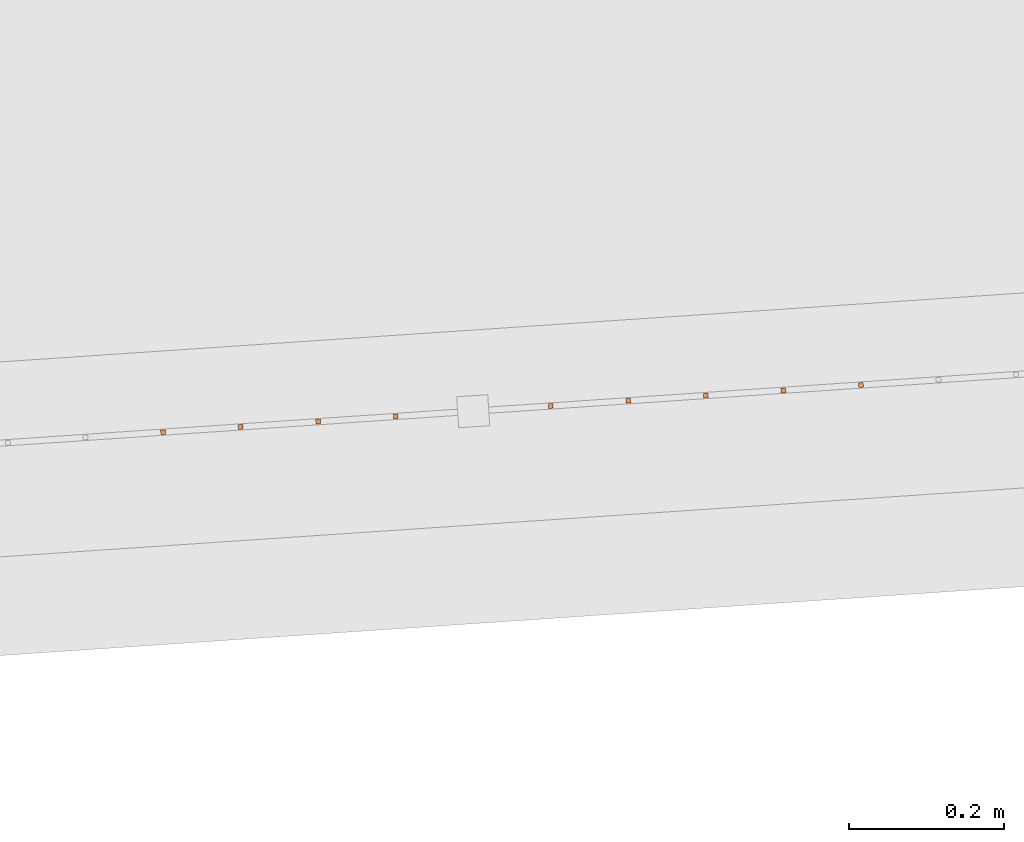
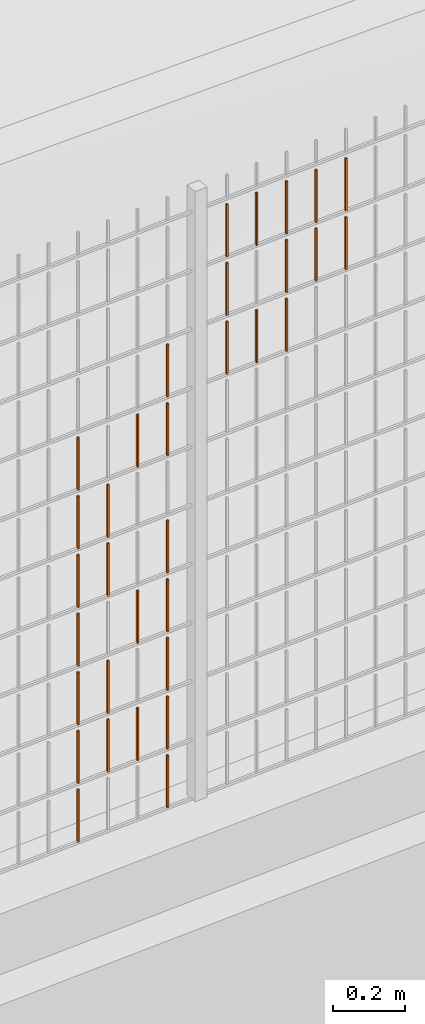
# One storey, part 359 of 1809: 33 proxies, 1 element without a shape of its own.
"""IFC2X3 building model written with IfcOpenShell, lengths in millimetres."""

from ifc_helpers import new_model, entity, si_unit, converted_unit, derived_unit, money_unit, direction, frame, origin_with_axes, place, context, subcontext, project, spatial, faceted_brep, source, transform, mapped, material, type_object, element, aggregate, save


model = new_model("IFC2X3")

# Units and contexts
model_context = context("Model", 3, precision=0.01, world=origin_with_axes(), true_north=direction((0.0, 1.0)))
body_context = subcontext(model_context, "Body", "Model", "MODEL_VIEW")
ifc_project = project(units=[si_unit("LENGTHUNIT", "METRE", prefix="MILLI"), si_unit("AREAUNIT", "SQUARE_METRE"), si_unit("VOLUMEUNIT", "CUBIC_METRE"), converted_unit("PLANEANGLEUNIT", "DEGREE", entity("IfcPlaneAngleMeasure", 0.0174532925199), si_unit("PLANEANGLEUNIT", "RADIAN"), dimensions=[0, 0, 0, 0, 0, 0, 0]), si_unit("SOLIDANGLEUNIT", "STERADIAN"), money_unit("EUR"), converted_unit("TIMEUNIT", "Year", entity("IfcTimeMeasure", 31556926.0), si_unit("TIMEUNIT", "SECOND"), dimensions=[0, 0, 1, 0, 0, 0, 0]), si_unit("MASSUNIT", "GRAM", prefix="KILO"), si_unit("THERMODYNAMICTEMPERATUREUNIT", "DEGREE_CELSIUS"), si_unit("LUMINOUSINTENSITYUNIT", "LUMEN"), si_unit("ENERGYUNIT", "JOULE", prefix="MEGA"), derived_unit("THERMALCONDUCTANCEUNIT", [(si_unit("POWERUNIT", "WATT"), 1), (si_unit("LENGTHUNIT", "METRE"), -1), (si_unit("THERMODYNAMICTEMPERATUREUNIT", "KELVIN"), -1)]), derived_unit("SPECIFICHEATCAPACITYUNIT", [(si_unit("ENERGYUNIT", "JOULE"), 1), (si_unit("MASSUNIT", "GRAM", prefix="KILO"), -1), (si_unit("THERMODYNAMICTEMPERATUREUNIT", "KELVIN"), -1)]), derived_unit("MASSDENSITYUNIT", [(si_unit("MASSUNIT", "GRAM", prefix="KILO"), 1), (si_unit("VOLUMEUNIT", "CUBIC_METRE"), -1)])], contexts=[model_context])

# Site, building, storey
site_placement = place(None, origin_with_axes())
site = spatial("IfcSite", under=ifc_project, at=site_placement, Name="Politse- ja Piirivalveameti ning Päästeameti ühishoone", CompositionType="ELEMENT")
building_placement = place(site_placement, origin_with_axes())
building = spatial("IfcBuilding", under=site, at=building_placement, Name="Politse- ja Piirivalveameti ning Päästeameti ühishoone", CompositionType="ELEMENT")
storey_placement = place(building_placement, origin_with_axes())
storey = spatial("IfcBuildingStorey", under=building, at=storey_placement, Name="Esimene korrus", CompositionType="ELEMENT", Elevation=0.0)

# Proxies
building_element_proxy_type_1 = type_object("IfcBuildingElementProxyType", Name="Railing Type", PredefinedType="NOTDEFINED")
proxy_1_placement = place(storey_placement, frame((89252.001212, -29183.4766571, 203.661247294), z_axis=(0.0, 0.0, 1.0), x_axis=(1.0, 0.0, 0.0)))
proxy_1 = element("IfcBuildingElementProxy", 1, at=proxy_1_placement, inside=storey, type_object=building_element_proxy_type_1, Name="PIIRDEAED")
ifc_material = material(Name="ET-03_Raud")
building_element_proxy_type_2 = type_object("IfcBuildingElementProxyType", Name="IfcBuildingElementProxy", PredefinedType="NOTDEFINED")
shared_shape_1 = source(origin_with_axes(), body_context, "Body", "Brep", [
    faceted_brep([(3.0, 3.0, -0.000752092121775), (-3.0, 3.0, -0.000752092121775), (-3.0, 3.0, 179.99926046), (3.0, 3.0, 179.99926046), (3.0, -3.0, 0.000752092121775), (-3.0, -3.0, 0.000752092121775), (-3.0, -3.0, 180.000764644), (3.0, -3.0, 180.000764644)], [[[0, 1, 2, 3]], [[0, 4, 5, 1]], [[1, 5, 6, 2]], [[3, 2, 6, 7]], [[4, 0, 3, 7]], [[5, 4, 7, 6]]]),
])
proxy_2_placement = place(proxy_1_placement, frame((-24969.790551, -18984.3898807, 1220.96026056), z_axis=(0.0, 0.0, 1.0), x_axis=(1.0, 0.0, 0.0)))
proxy_2 = element("IfcBuildingElementProxy", 2, at=proxy_2_placement, type_object=building_element_proxy_type_2, material=ifc_material, Name="BALUSTER - 001", context=body_context, shape_type="MappedRepresentation", body=[
    mapped(shared_shape_1, transform((0.0, 0.0, 0.0), x_axis=(-0.0673926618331, 0.997726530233, 0.0), y_axis=(-0.997726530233, -0.0673926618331, 0.0), z_axis=(0.0, 0.0, 1.0))),
])
shared_shape_2 = source(origin_with_axes(), body_context, "Body", "Brep", [
    faceted_brep([(3.0, 3.0, -0.000752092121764), (-3.0, 3.0, -0.000752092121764), (-3.0, 3.0, 179.99926046), (3.0, 3.0, 179.99926046), (3.0, -3.0, 0.000752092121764), (-3.0, -3.0, 0.000752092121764), (-3.0, -3.0, 180.000764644), (3.0, -3.0, 180.000764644)], [[[0, 1, 2, 3]], [[0, 4, 5, 1]], [[1, 5, 6, 2]], [[3, 2, 6, 7]], [[4, 0, 3, 7]], [[5, 4, 7, 6]]]),
])
proxy_3_placement = place(proxy_1_placement, frame((-24870.017898, -18977.6506146, 1420.9853303), z_axis=(0.0, 0.0, 1.0), x_axis=(1.0, 0.0, 0.0)))
proxy_3 = element("IfcBuildingElementProxy", 3, at=proxy_3_placement, type_object=building_element_proxy_type_2, material=ifc_material, Name="BALUSTER - 001", context=body_context, shape_type="MappedRepresentation", body=[
    mapped(shared_shape_2, transform((0.0, 0.0, 0.0), x_axis=(-0.0673926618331, 0.997726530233, 0.0), y_axis=(-0.997726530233, -0.0673926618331, 0.0), z_axis=(0.0, 0.0, 1.0))),
])
shared_shape_3 = source(origin_with_axes(), body_context, "Body", "Brep", [
    faceted_brep([(3.0, 3.0, -0.000752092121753), (-3.0, 3.0, -0.000752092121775), (-3.0, 3.0, 179.99926046), (3.0, 3.0, 179.99926046), (3.0, -3.0, 0.000752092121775), (-3.0, -3.0, 0.000752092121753), (-3.0, -3.0, 180.000764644), (3.0, -3.0, 180.000764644)], [[[0, 1, 2, 3]], [[0, 4, 5, 1]], [[1, 5, 6, 2]], [[3, 2, 6, 7]], [[4, 0, 3, 7]], [[5, 4, 7, 6]]]),
])
proxy_4_placement = place(proxy_1_placement, frame((-25169.3358571, -18997.8684131, 420.910121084), z_axis=(0.0, 0.0, 1.0), x_axis=(1.0, 0.0, 0.0)))
proxy_4 = element("IfcBuildingElementProxy", 4, at=proxy_4_placement, type_object=building_element_proxy_type_2, material=ifc_material, Name="BALUSTER - 001", context=body_context, shape_type="MappedRepresentation", body=[
    mapped(shared_shape_3, transform((0.0, 0.0, 0.0), x_axis=(-0.0673926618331, 0.997726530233, 0.0), y_axis=(-0.997726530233, -0.0673926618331, 0.0), z_axis=(0.0, 0.0, 1.0))),
])
shared_shape_4 = source(origin_with_axes(), body_context, "Body", "Brep", [
    faceted_brep([(3.0, 3.0, -0.000752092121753), (-3.0, 3.0, -0.000752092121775), (-3.0, 3.0, 179.99926046), (3.0, 3.0, 179.99926046), (3.0, -3.0, 0.000752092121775), (-3.0, -3.0, 0.000752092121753), (-3.0, -3.0, 180.000764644), (3.0, -3.0, 180.000764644)], [[[0, 1, 2, 3]], [[0, 4, 5, 1]], [[1, 5, 6, 2]], [[3, 2, 6, 7]], [[4, 0, 3, 7]], [[5, 4, 7, 6]]]),
])
proxy_5_placement = place(proxy_1_placement, frame((-25169.3358571, -18997.8684131, 620.910121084), z_axis=(0.0, 0.0, 1.0), x_axis=(1.0, 0.0, 0.0)))
proxy_5 = element("IfcBuildingElementProxy", 5, at=proxy_5_placement, type_object=building_element_proxy_type_2, material=ifc_material, Name="BALUSTER - 001", context=body_context, shape_type="MappedRepresentation", body=[
    mapped(shared_shape_4, transform((0.0, 0.0, 0.0), x_axis=(-0.0673926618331, 0.997726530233, 0.0), y_axis=(-0.997726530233, -0.0673926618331, 0.0), z_axis=(0.0, 0.0, 1.0))),
])
shared_shape_5 = source(origin_with_axes(), body_context, "Body", "Brep", [
    faceted_brep([(3.0, 3.0, -0.000752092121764), (-3.0, 3.0, -0.000752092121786), (-3.0, 3.0, 179.99926046), (3.0, 3.0, 179.99926046), (3.0, -3.0, 0.000752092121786), (-3.0, -3.0, 0.000752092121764), (-3.0, -3.0, 180.000764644), (3.0, -3.0, 180.000764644)], [[[0, 1, 2, 3]], [[0, 4, 5, 1]], [[1, 5, 6, 2]], [[3, 2, 6, 7]], [[4, 0, 3, 7]], [[5, 4, 7, 6]]]),
])
proxy_6_placement = place(proxy_1_placement, frame((-25169.3358571, -18997.8684131, 1220.91012108), z_axis=(0.0, 0.0, 1.0), x_axis=(1.0, 0.0, 0.0)))
proxy_6 = element("IfcBuildingElementProxy", 6, at=proxy_6_placement, type_object=building_element_proxy_type_2, material=ifc_material, Name="BALUSTER - 001", context=body_context, shape_type="MappedRepresentation", body=[
    mapped(shared_shape_5, transform((0.0, 0.0, 0.0), x_axis=(-0.0673926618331, 0.997726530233, 0.0), y_axis=(-0.997726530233, -0.0673926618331, 0.0), z_axis=(0.0, 0.0, 1.0))),
])
shared_shape_6 = source(origin_with_axes(), body_context, "Body", "Brep", [
    faceted_brep([(3.0, 3.0, -0.000752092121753), (-3.0, 3.0, -0.000752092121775), (-3.0, 3.0, 179.99926046), (3.0, 3.0, 179.99926046), (3.0, -3.0, 0.000752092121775), (-3.0, -3.0, 0.000752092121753), (-3.0, -3.0, 180.000764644), (3.0, -3.0, 180.000764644)], [[[0, 1, 2, 3]], [[0, 4, 5, 1]], [[1, 5, 6, 2]], [[3, 2, 6, 7]], [[4, 0, 3, 7]], [[5, 4, 7, 6]]]),
])
proxy_7_placement = place(proxy_1_placement, frame((-25169.3358571, -18997.8684131, 820.910121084), z_axis=(0.0, 0.0, 1.0), x_axis=(1.0, 0.0, 0.0)))
proxy_7 = element("IfcBuildingElementProxy", 7, at=proxy_7_placement, type_object=building_element_proxy_type_2, material=ifc_material, Name="BALUSTER - 001", context=body_context, shape_type="MappedRepresentation", body=[
    mapped(shared_shape_6, transform((0.0, 0.0, 0.0), x_axis=(-0.0673926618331, 0.997726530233, 0.0), y_axis=(-0.997726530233, -0.0673926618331, 0.0), z_axis=(0.0, 0.0, 1.0))),
])
shared_shape_7 = source(origin_with_axes(), body_context, "Body", "Brep", [
    faceted_brep([(3.0, 3.0, -0.000752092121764), (-3.0, 3.0, -0.000752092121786), (-3.0, 3.0, 179.99926046), (3.0, 3.0, 179.99926046), (3.0, -3.0, 0.000752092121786), (-3.0, -3.0, 0.000752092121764), (-3.0, -3.0, 180.000764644), (3.0, -3.0, 180.000764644)], [[[0, 1, 2, 3]], [[0, 4, 5, 1]], [[1, 5, 6, 2]], [[3, 2, 6, 7]], [[4, 0, 3, 7]], [[5, 4, 7, 6]]]),
])
proxy_8_placement = place(proxy_1_placement, frame((-24470.9272859, -18950.6935498, 1821.08560925), z_axis=(0.0, 0.0, 1.0), x_axis=(1.0, 0.0, 0.0)))
proxy_8 = element("IfcBuildingElementProxy", 8, at=proxy_8_placement, type_object=building_element_proxy_type_2, material=ifc_material, Name="BALUSTER - 001", context=body_context, shape_type="MappedRepresentation", body=[
    mapped(shared_shape_7, transform((0.0, 0.0, 0.0), x_axis=(-0.0673926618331, 0.997726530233, 0.0), y_axis=(-0.997726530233, -0.0673926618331, 0.0), z_axis=(0.0, 0.0, 1.0))),
])
proxy_9_placement = place(proxy_1_placement, frame((-24570.6999389, -18957.432816, 1821.06053951), z_axis=(0.0, 0.0, 1.0), x_axis=(1.0, 0.0, 0.0)))
proxy_9 = element("IfcBuildingElementProxy", 9, at=proxy_9_placement, type_object=building_element_proxy_type_2, material=ifc_material, Name="BALUSTER - 001", context=body_context, shape_type="MappedRepresentation", body=[
    mapped(shared_shape_7, transform((0.0, 0.0, 0.0), x_axis=(-0.0673926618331, 0.997726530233, 0.0), y_axis=(-0.997726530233, -0.0673926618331, 0.0), z_axis=(0.0, 0.0, 1.0))),
])
shared_shape_8 = source(origin_with_axes(), body_context, "Body", "Brep", [
    faceted_brep([(3.0, 3.0, -0.000752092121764), (-3.0, 3.0, -0.000752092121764), (-3.0, 3.0, 179.99926046), (3.0, 3.0, 179.99926046), (3.0, -3.0, 0.000752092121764), (-3.0, -3.0, 0.000752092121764), (-3.0, -3.0, 180.000764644), (3.0, -3.0, 180.000764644)], [[[0, 1, 2, 3]], [[0, 4, 5, 1]], [[1, 5, 6, 2]], [[3, 2, 6, 7]], [[4, 0, 3, 7]], [[5, 4, 7, 6]]]),
])
proxy_10_placement = place(proxy_1_placement, frame((-24870.017898, -18977.6506146, 1220.9853303), z_axis=(0.0, 0.0, 1.0), x_axis=(1.0, 0.0, 0.0)))
proxy_10 = element("IfcBuildingElementProxy", 10, at=proxy_10_placement, type_object=building_element_proxy_type_2, material=ifc_material, Name="BALUSTER - 001", context=body_context, shape_type="MappedRepresentation", body=[
    mapped(shared_shape_8, transform((0.0, 0.0, 0.0), x_axis=(-0.0673926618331, 0.997726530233, 0.0), y_axis=(-0.997726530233, -0.0673926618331, 0.0), z_axis=(0.0, 0.0, 1.0))),
])
shared_shape_9 = source(origin_with_axes(), body_context, "Body", "Brep", [
    faceted_brep([(3.0, 3.0, -0.000752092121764), (-3.0, 3.0, -0.000752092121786), (-3.0, 3.0, 179.99926046), (3.0, 3.0, 179.99926046), (3.0, -3.0, 0.000752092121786), (-3.0, -3.0, 0.000752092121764), (-3.0, -3.0, 180.000764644), (3.0, -3.0, 180.000764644)], [[[0, 1, 2, 3]], [[0, 4, 5, 1]], [[1, 5, 6, 2]], [[3, 2, 6, 7]], [[4, 0, 3, 7]], [[5, 4, 7, 6]]]),
])
proxy_11_placement = place(proxy_1_placement, frame((-24371.1546329, -18943.9542836, 1821.11067898), z_axis=(0.0, 0.0, 1.0), x_axis=(1.0, 0.0, 0.0)))
proxy_11 = element("IfcBuildingElementProxy", 11, at=proxy_11_placement, type_object=building_element_proxy_type_2, material=ifc_material, Name="BALUSTER - 001", context=body_context, shape_type="MappedRepresentation", body=[
    mapped(shared_shape_9, transform((0.0, 0.0, 0.0), x_axis=(-0.0673926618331, 0.997726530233, 0.0), y_axis=(-0.997726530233, -0.0673926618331, 0.0), z_axis=(0.0, 0.0, 1.0))),
])
shared_shape_10 = source(origin_with_axes(), body_context, "Body", "Brep", [
    faceted_brep([(3.0, 3.0, -0.000752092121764), (-3.0, 3.0, -0.000752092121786), (-3.0, 3.0, 179.99926046), (3.0, 3.0, 179.99926046), (3.0, -3.0, 0.000752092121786), (-3.0, -3.0, 0.000752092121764), (-3.0, -3.0, 180.000764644), (3.0, -3.0, 180.000764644)], [[[0, 1, 2, 3]], [[0, 4, 5, 1]], [[1, 5, 6, 2]], [[3, 2, 6, 7]], [[4, 0, 3, 7]], [[5, 4, 7, 6]]]),
])
proxy_12_placement = place(proxy_1_placement, frame((-24470.9272859, -18950.6935498, 1621.08560925), z_axis=(0.0, 0.0, 1.0), x_axis=(1.0, 0.0, 0.0)))
proxy_12 = element("IfcBuildingElementProxy", 12, at=proxy_12_placement, type_object=building_element_proxy_type_2, material=ifc_material, Name="BALUSTER - 001", context=body_context, shape_type="MappedRepresentation", body=[
    mapped(shared_shape_10, transform((0.0, 0.0, 0.0), x_axis=(-0.0673926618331, 0.997726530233, 0.0), y_axis=(-0.997726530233, -0.0673926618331, 0.0), z_axis=(0.0, 0.0, 1.0))),
])
shared_shape_11 = source(origin_with_axes(), body_context, "Body", "Brep", [
    faceted_brep([(3.0, 3.0, -0.000752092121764), (-3.0, 3.0, -0.000752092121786), (-3.0, 3.0, 179.99926046), (3.0, 3.0, 179.99926046), (3.0, -3.0, 0.000752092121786), (-3.0, -3.0, 0.000752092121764), (-3.0, -3.0, 180.000764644), (3.0, -3.0, 180.000764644)], [[[0, 1, 2, 3]], [[0, 4, 5, 1]], [[1, 5, 6, 2]], [[3, 2, 6, 7]], [[4, 0, 3, 7]], [[5, 4, 7, 6]]]),
])
proxy_13_placement = place(proxy_1_placement, frame((-24371.1546329, -18943.9542836, 1621.11067898), z_axis=(0.0, 0.0, 1.0), x_axis=(1.0, 0.0, 0.0)))
proxy_13 = element("IfcBuildingElementProxy", 13, at=proxy_13_placement, type_object=building_element_proxy_type_2, material=ifc_material, Name="BALUSTER - 001", context=body_context, shape_type="MappedRepresentation", body=[
    mapped(shared_shape_11, transform((0.0, 0.0, 0.0), x_axis=(-0.0673926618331, 0.997726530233, 0.0), y_axis=(-0.997726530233, -0.0673926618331, 0.0), z_axis=(0.0, 0.0, 1.0))),
])
shared_shape_12 = source(origin_with_axes(), body_context, "Body", "Brep", [
    faceted_brep([(3.0, 3.0, -0.000752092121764), (-3.0, 3.0, -0.000752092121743), (-3.0, 3.0, 179.99926046), (3.0, 3.0, 179.99926046), (3.0, -3.0, 0.000752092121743), (-3.0, -3.0, 0.000752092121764), (-3.0, -3.0, 180.000764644), (3.0, -3.0, 180.000764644)], [[[0, 1, 2, 3]], [[0, 4, 5, 1]], [[1, 5, 6, 2]], [[3, 2, 6, 7]], [[4, 0, 3, 7]], [[5, 4, 7, 6]]]),
])
proxy_14_placement = place(proxy_1_placement, frame((-24271.3819798, -18937.2150175, 1621.13574872), z_axis=(0.0, 0.0, 1.0), x_axis=(1.0, 0.0, 0.0)))
proxy_14 = element("IfcBuildingElementProxy", 14, at=proxy_14_placement, type_object=building_element_proxy_type_2, material=ifc_material, Name="BALUSTER - 001", context=body_context, shape_type="MappedRepresentation", body=[
    mapped(shared_shape_12, transform((0.0, 0.0, 0.0), x_axis=(-0.0673926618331, 0.997726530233, 0.0), y_axis=(-0.997726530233, -0.0673926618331, 0.0), z_axis=(0.0, 0.0, 1.0))),
])
shared_shape_13 = source(origin_with_axes(), body_context, "Body", "Brep", [
    faceted_brep([(3.0, 3.0, -0.000752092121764), (-3.0, 3.0, -0.000752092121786), (-3.0, 3.0, 179.99926046), (3.0, 3.0, 179.99926046), (3.0, -3.0, 0.000752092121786), (-3.0, -3.0, 0.000752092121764), (-3.0, -3.0, 180.000764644), (3.0, -3.0, 180.000764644)], [[[0, 1, 2, 3]], [[0, 4, 5, 1]], [[1, 5, 6, 2]], [[3, 2, 6, 7]], [[4, 0, 3, 7]], [[5, 4, 7, 6]]]),
])
proxy_15_placement = place(proxy_1_placement, frame((-24470.9272859, -18950.6935498, 1421.08560925), z_axis=(0.0, 0.0, 1.0), x_axis=(1.0, 0.0, 0.0)))
proxy_15 = element("IfcBuildingElementProxy", 15, at=proxy_15_placement, type_object=building_element_proxy_type_2, material=ifc_material, Name="BALUSTER - 001", context=body_context, shape_type="MappedRepresentation", body=[
    mapped(shared_shape_13, transform((0.0, 0.0, 0.0), x_axis=(-0.0673926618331, 0.997726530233, 0.0), y_axis=(-0.997726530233, -0.0673926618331, 0.0), z_axis=(0.0, 0.0, 1.0))),
])
proxy_16_placement = place(proxy_1_placement, frame((-24570.6999389, -18957.432816, 1421.06053951), z_axis=(0.0, 0.0, 1.0), x_axis=(1.0, 0.0, 0.0)))
proxy_16 = element("IfcBuildingElementProxy", 16, at=proxy_16_placement, type_object=building_element_proxy_type_2, material=ifc_material, Name="BALUSTER - 001", context=body_context, shape_type="MappedRepresentation", body=[
    mapped(shared_shape_13, transform((0.0, 0.0, 0.0), x_axis=(-0.0673926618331, 0.997726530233, 0.0), y_axis=(-0.997726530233, -0.0673926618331, 0.0), z_axis=(0.0, 0.0, 1.0))),
])
shared_shape_14 = source(origin_with_axes(), body_context, "Body", "Brep", [
    faceted_brep([(3.0, 3.0, -0.000752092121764), (-3.0, 3.0, -0.000752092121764), (-3.0, 3.0, 179.99926046), (3.0, 3.0, 179.99926046), (3.0, -3.0, 0.000752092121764), (-3.0, -3.0, 0.000752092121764), (-3.0, -3.0, 180.000764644), (3.0, -3.0, 180.000764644)], [[[0, 1, 2, 3]], [[0, 4, 5, 1]], [[1, 5, 6, 2]], [[3, 2, 6, 7]], [[4, 0, 3, 7]], [[5, 4, 7, 6]]]),
])
proxy_17_placement = place(proxy_1_placement, frame((-24670.4725919, -18964.1720822, 1421.03546977), z_axis=(0.0, 0.0, 1.0), x_axis=(1.0, 0.0, 0.0)))
proxy_17 = element("IfcBuildingElementProxy", 17, at=proxy_17_placement, type_object=building_element_proxy_type_2, material=ifc_material, Name="BALUSTER - 001", context=body_context, shape_type="MappedRepresentation", body=[
    mapped(shared_shape_14, transform((0.0, 0.0, 0.0), x_axis=(-0.0673926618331, 0.997726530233, 0.0), y_axis=(-0.997726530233, -0.0673926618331, 0.0), z_axis=(0.0, 0.0, 1.0))),
])
proxy_18_placement = place(proxy_1_placement, frame((-24670.4725919, -18964.1720822, 1621.03546977), z_axis=(0.0, 0.0, 1.0), x_axis=(1.0, 0.0, 0.0)))
proxy_18 = element("IfcBuildingElementProxy", 18, at=proxy_18_placement, type_object=building_element_proxy_type_2, material=ifc_material, Name="BALUSTER - 001", context=body_context, shape_type="MappedRepresentation", body=[
    mapped(shared_shape_14, transform((0.0, 0.0, 0.0), x_axis=(-0.0673926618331, 0.997726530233, 0.0), y_axis=(-0.997726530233, -0.0673926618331, 0.0), z_axis=(0.0, 0.0, 1.0))),
])
shared_shape_15 = source(origin_with_axes(), body_context, "Body", "Brep", [
    faceted_brep([(3.0, 3.0, -0.000752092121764), (-3.0, 3.0, -0.000752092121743), (-3.0, 3.0, 179.99926046), (3.0, 3.0, 179.99926046), (3.0, -3.0, 0.000752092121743), (-3.0, -3.0, 0.000752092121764), (-3.0, -3.0, 180.000764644), (3.0, -3.0, 180.000764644)], [[[0, 1, 2, 3]], [[0, 4, 5, 1]], [[1, 5, 6, 2]], [[3, 2, 6, 7]], [[4, 0, 3, 7]], [[5, 4, 7, 6]]]),
])
proxy_19_placement = place(proxy_1_placement, frame((-24271.3819798, -18937.2150175, 1821.13574872), z_axis=(0.0, 0.0, 1.0), x_axis=(1.0, 0.0, 0.0)))
proxy_19 = element("IfcBuildingElementProxy", 19, at=proxy_19_placement, type_object=building_element_proxy_type_2, material=ifc_material, Name="BALUSTER - 001", context=body_context, shape_type="MappedRepresentation", body=[
    mapped(shared_shape_15, transform((0.0, 0.0, 0.0), x_axis=(-0.0673926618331, 0.997726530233, 0.0), y_axis=(-0.997726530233, -0.0673926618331, 0.0), z_axis=(0.0, 0.0, 1.0))),
])
shared_shape_16 = source(origin_with_axes(), body_context, "Body", "Brep", [
    faceted_brep([(3.0, 3.0, -0.000752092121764), (-3.0, 3.0, -0.000752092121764), (-3.0, 3.0, 179.99926046), (3.0, 3.0, 179.99926046), (3.0, -3.0, 0.000752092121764), (-3.0, -3.0, 0.000752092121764), (-3.0, -3.0, 180.000764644), (3.0, -3.0, 180.000764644)], [[[0, 1, 2, 3]], [[0, 4, 5, 1]], [[1, 5, 6, 2]], [[3, 2, 6, 7]], [[4, 0, 3, 7]], [[5, 4, 7, 6]]]),
])
proxy_20_placement = place(proxy_1_placement, frame((-24670.4725919, -18964.1720822, 1821.03546977), z_axis=(0.0, 0.0, 1.0), x_axis=(1.0, 0.0, 0.0)))
proxy_20 = element("IfcBuildingElementProxy", 20, at=proxy_20_placement, type_object=building_element_proxy_type_2, material=ifc_material, Name="BALUSTER - 001", context=body_context, shape_type="MappedRepresentation", body=[
    mapped(shared_shape_16, transform((0.0, 0.0, 0.0), x_axis=(-0.0673926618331, 0.997726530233, 0.0), y_axis=(-0.997726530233, -0.0673926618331, 0.0), z_axis=(0.0, 0.0, 1.0))),
])
shared_shape_17 = source(origin_with_axes(), body_context, "Body", "Brep", [
    faceted_brep([(3.0, 3.0, -0.000752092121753), (-3.0, 3.0, -0.000752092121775), (-3.0, 3.0, 179.99926046), (3.0, 3.0, 179.99926046), (3.0, -3.0, 0.000752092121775), (-3.0, -3.0, 0.000752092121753), (-3.0, -3.0, 180.000764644), (3.0, -3.0, 180.000764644)], [[[0, 1, 2, 3]], [[0, 4, 5, 1]], [[1, 5, 6, 2]], [[3, 2, 6, 7]], [[4, 0, 3, 7]], [[5, 4, 7, 6]]]),
])
proxy_21_placement = place(proxy_1_placement, frame((-24870.017898, -18977.6506146, 20.9853302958), z_axis=(0.0, 0.0, 1.0), x_axis=(1.0, 0.0, 0.0)))
proxy_21 = element("IfcBuildingElementProxy", 21, at=proxy_21_placement, type_object=building_element_proxy_type_2, material=ifc_material, Name="BALUSTER - 001", context=body_context, shape_type="MappedRepresentation", body=[
    mapped(shared_shape_17, transform((0.0, 0.0, 0.0), x_axis=(-0.0673926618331, 0.997726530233, 0.0), y_axis=(-0.997726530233, -0.0673926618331, 0.0), z_axis=(0.0, 0.0, 1.0))),
])
shared_shape_18 = source(origin_with_axes(), body_context, "Body", "Brep", [
    faceted_brep([(3.0, 3.0, -0.000752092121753), (-3.0, 3.0, -0.000752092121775), (-3.0, 3.0, 179.99926046), (3.0, 3.0, 179.99926046), (3.0, -3.0, 0.000752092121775), (-3.0, -3.0, 0.000752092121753), (-3.0, -3.0, 180.000764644), (3.0, -3.0, 180.000764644)], [[[0, 1, 2, 3]], [[0, 4, 5, 1]], [[1, 5, 6, 2]], [[3, 2, 6, 7]], [[4, 0, 3, 7]], [[5, 4, 7, 6]]]),
])
proxy_22_placement = place(proxy_1_placement, frame((-25169.3358571, -18997.8684131, 20.9101210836), z_axis=(0.0, 0.0, 1.0), x_axis=(1.0, 0.0, 0.0)))
proxy_22 = element("IfcBuildingElementProxy", 22, at=proxy_22_placement, type_object=building_element_proxy_type_2, material=ifc_material, Name="BALUSTER - 001", context=body_context, shape_type="MappedRepresentation", body=[
    mapped(shared_shape_18, transform((0.0, 0.0, 0.0), x_axis=(-0.0673926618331, 0.997726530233, 0.0), y_axis=(-0.997726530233, -0.0673926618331, 0.0), z_axis=(0.0, 0.0, 1.0))),
])
shared_shape_19 = source(origin_with_axes(), body_context, "Body", "Brep", [
    faceted_brep([(3.0, 3.0, -0.000752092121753), (-3.0, 3.0, -0.000752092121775), (-3.0, 3.0, 179.99926046), (3.0, 3.0, 179.99926046), (3.0, -3.0, 0.000752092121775), (-3.0, -3.0, 0.000752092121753), (-3.0, -3.0, 180.000764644), (3.0, -3.0, 180.000764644)], [[[0, 1, 2, 3]], [[0, 4, 5, 1]], [[1, 5, 6, 2]], [[3, 2, 6, 7]], [[4, 0, 3, 7]], [[5, 4, 7, 6]]]),
])
proxy_23_placement = place(proxy_1_placement, frame((-24870.017898, -18977.6506146, 220.985330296), z_axis=(0.0, 0.0, 1.0), x_axis=(1.0, 0.0, 0.0)))
proxy_23 = element("IfcBuildingElementProxy", 23, at=proxy_23_placement, type_object=building_element_proxy_type_2, material=ifc_material, Name="BALUSTER - 001", context=body_context, shape_type="MappedRepresentation", body=[
    mapped(shared_shape_19, transform((0.0, 0.0, 0.0), x_axis=(-0.0673926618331, 0.997726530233, 0.0), y_axis=(-0.997726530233, -0.0673926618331, 0.0), z_axis=(0.0, 0.0, 1.0))),
])
proxy_24_placement = place(proxy_1_placement, frame((-24870.017898, -18977.6506146, 420.985330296), z_axis=(0.0, 0.0, 1.0), x_axis=(1.0, 0.0, 0.0)))
proxy_24 = element("IfcBuildingElementProxy", 24, at=proxy_24_placement, type_object=building_element_proxy_type_2, material=ifc_material, Name="BALUSTER - 001", context=body_context, shape_type="MappedRepresentation", body=[
    mapped(shared_shape_19, transform((0.0, 0.0, 0.0), x_axis=(-0.0673926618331, 0.997726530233, 0.0), y_axis=(-0.997726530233, -0.0673926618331, 0.0), z_axis=(0.0, 0.0, 1.0))),
])
shared_shape_20 = source(origin_with_axes(), body_context, "Body", "Brep", [
    faceted_brep([(3.0, 3.0, -0.000752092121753), (-3.0, 3.0, -0.000752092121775), (-3.0, 3.0, 179.99926046), (3.0, 3.0, 179.99926046), (3.0, -3.0, 0.000752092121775), (-3.0, -3.0, 0.000752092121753), (-3.0, -3.0, 180.000764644), (3.0, -3.0, 180.000764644)], [[[0, 1, 2, 3]], [[0, 4, 5, 1]], [[1, 5, 6, 2]], [[3, 2, 6, 7]], [[4, 0, 3, 7]], [[5, 4, 7, 6]]]),
])
proxy_25_placement = place(proxy_1_placement, frame((-24969.790551, -18984.3898807, 220.960260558), z_axis=(0.0, 0.0, 1.0), x_axis=(1.0, 0.0, 0.0)))
proxy_25 = element("IfcBuildingElementProxy", 25, at=proxy_25_placement, type_object=building_element_proxy_type_2, material=ifc_material, Name="BALUSTER - 001", context=body_context, shape_type="MappedRepresentation", body=[
    mapped(shared_shape_20, transform((0.0, 0.0, 0.0), x_axis=(-0.0673926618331, 0.997726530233, 0.0), y_axis=(-0.997726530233, -0.0673926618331, 0.0), z_axis=(0.0, 0.0, 1.0))),
])
proxy_26_placement = place(proxy_1_placement, frame((-24969.790551, -18984.3898807, 620.960260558), z_axis=(0.0, 0.0, 1.0), x_axis=(1.0, 0.0, 0.0)))
proxy_26 = element("IfcBuildingElementProxy", 26, at=proxy_26_placement, type_object=building_element_proxy_type_2, material=ifc_material, Name="BALUSTER - 001", context=body_context, shape_type="MappedRepresentation", body=[
    mapped(shared_shape_20, transform((0.0, 0.0, 0.0), x_axis=(-0.0673926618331, 0.997726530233, 0.0), y_axis=(-0.997726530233, -0.0673926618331, 0.0), z_axis=(0.0, 0.0, 1.0))),
])
shared_shape_21 = source(origin_with_axes(), body_context, "Body", "Brep", [
    faceted_brep([(3.0, 3.0, -0.000752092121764), (-3.0, 3.0, -0.000752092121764), (-3.0, 3.0, 179.99926046), (3.0, 3.0, 179.99926046), (3.0, -3.0, 0.000752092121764), (-3.0, -3.0, 0.000752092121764), (-3.0, -3.0, 180.000764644), (3.0, -3.0, 180.000764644)], [[[0, 1, 2, 3]], [[0, 4, 5, 1]], [[1, 5, 6, 2]], [[3, 2, 6, 7]], [[4, 0, 3, 7]], [[5, 4, 7, 6]]]),
])
proxy_27_placement = place(proxy_1_placement, frame((-25069.563204, -18991.1291469, 220.935190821), z_axis=(0.0, 0.0, 1.0), x_axis=(1.0, 0.0, 0.0)))
proxy_27 = element("IfcBuildingElementProxy", 27, at=proxy_27_placement, type_object=building_element_proxy_type_2, material=ifc_material, Name="BALUSTER - 001", context=body_context, shape_type="MappedRepresentation", body=[
    mapped(shared_shape_21, transform((0.0, 0.0, 0.0), x_axis=(-0.0673926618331, 0.997726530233, 0.0), y_axis=(-0.997726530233, -0.0673926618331, 0.0), z_axis=(0.0, 0.0, 1.0))),
])
proxy_28_placement = place(proxy_1_placement, frame((-25069.563204, -18991.1291469, 420.935190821), z_axis=(0.0, 0.0, 1.0), x_axis=(1.0, 0.0, 0.0)))
proxy_28 = element("IfcBuildingElementProxy", 28, at=proxy_28_placement, type_object=building_element_proxy_type_2, material=ifc_material, Name="BALUSTER - 001", context=body_context, shape_type="MappedRepresentation", body=[
    mapped(shared_shape_21, transform((0.0, 0.0, 0.0), x_axis=(-0.0673926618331, 0.997726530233, 0.0), y_axis=(-0.997726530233, -0.0673926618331, 0.0), z_axis=(0.0, 0.0, 1.0))),
])
shared_shape_22 = source(origin_with_axes(), body_context, "Body", "Brep", [
    faceted_brep([(3.0, 3.0, -0.000752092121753), (-3.0, 3.0, -0.000752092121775), (-3.0, 3.0, 179.99926046), (3.0, 3.0, 179.99926046), (3.0, -3.0, 0.000752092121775), (-3.0, -3.0, 0.000752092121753), (-3.0, -3.0, 180.000764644), (3.0, -3.0, 180.000764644)], [[[0, 1, 2, 3]], [[0, 4, 5, 1]], [[1, 5, 6, 2]], [[3, 2, 6, 7]], [[4, 0, 3, 7]], [[5, 4, 7, 6]]]),
])
proxy_29_placement = place(proxy_1_placement, frame((-25169.3358571, -18997.8684131, 220.910121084), z_axis=(0.0, 0.0, 1.0), x_axis=(1.0, 0.0, 0.0)))
proxy_29 = element("IfcBuildingElementProxy", 29, at=proxy_29_placement, type_object=building_element_proxy_type_2, material=ifc_material, Name="BALUSTER - 001", context=body_context, shape_type="MappedRepresentation", body=[
    mapped(shared_shape_22, transform((0.0, 0.0, 0.0), x_axis=(-0.0673926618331, 0.997726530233, 0.0), y_axis=(-0.997726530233, -0.0673926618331, 0.0), z_axis=(0.0, 0.0, 1.0))),
])
shared_shape_23 = source(origin_with_axes(), body_context, "Body", "Brep", [
    faceted_brep([(3.0, 3.0, -0.000752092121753), (-3.0, 3.0, -0.000752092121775), (-3.0, 3.0, 179.99926046), (3.0, 3.0, 179.99926046), (3.0, -3.0, 0.000752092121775), (-3.0, -3.0, 0.000752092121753), (-3.0, -3.0, 180.000764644), (3.0, -3.0, 180.000764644)], [[[0, 1, 2, 3]], [[0, 4, 5, 1]], [[1, 5, 6, 2]], [[3, 2, 6, 7]], [[4, 0, 3, 7]], [[5, 4, 7, 6]]]),
])
proxy_30_placement = place(proxy_1_placement, frame((-24870.017898, -18977.6506146, 620.985330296), z_axis=(0.0, 0.0, 1.0), x_axis=(1.0, 0.0, 0.0)))
proxy_30 = element("IfcBuildingElementProxy", 30, at=proxy_30_placement, type_object=building_element_proxy_type_2, material=ifc_material, Name="BALUSTER - 001", context=body_context, shape_type="MappedRepresentation", body=[
    mapped(shared_shape_23, transform((0.0, 0.0, 0.0), x_axis=(-0.0673926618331, 0.997726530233, 0.0), y_axis=(-0.997726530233, -0.0673926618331, 0.0), z_axis=(0.0, 0.0, 1.0))),
])
shared_shape_24 = source(origin_with_axes(), body_context, "Body", "Brep", [
    faceted_brep([(3.0, 3.0, -0.000752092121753), (-3.0, 3.0, -0.000752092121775), (-3.0, 3.0, 179.99926046), (3.0, 3.0, 179.99926046), (3.0, -3.0, 0.000752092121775), (-3.0, -3.0, 0.000752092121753), (-3.0, -3.0, 180.000764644), (3.0, -3.0, 180.000764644)], [[[0, 1, 2, 3]], [[0, 4, 5, 1]], [[1, 5, 6, 2]], [[3, 2, 6, 7]], [[4, 0, 3, 7]], [[5, 4, 7, 6]]]),
])
proxy_31_placement = place(proxy_1_placement, frame((-24870.017898, -18977.6506146, 820.985330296), z_axis=(0.0, 0.0, 1.0), x_axis=(1.0, 0.0, 0.0)))
proxy_31 = element("IfcBuildingElementProxy", 31, at=proxy_31_placement, type_object=building_element_proxy_type_2, material=ifc_material, Name="BALUSTER - 001", context=body_context, shape_type="MappedRepresentation", body=[
    mapped(shared_shape_24, transform((0.0, 0.0, 0.0), x_axis=(-0.0673926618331, 0.997726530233, 0.0), y_axis=(-0.997726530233, -0.0673926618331, 0.0), z_axis=(0.0, 0.0, 1.0))),
])
shared_shape_25 = source(origin_with_axes(), body_context, "Body", "Brep", [
    faceted_brep([(3.0, 3.0, -0.000752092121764), (-3.0, 3.0, -0.000752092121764), (-3.0, 3.0, 179.99926046), (3.0, 3.0, 179.99926046), (3.0, -3.0, 0.000752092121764), (-3.0, -3.0, 0.000752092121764), (-3.0, -3.0, 180.000764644), (3.0, -3.0, 180.000764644)], [[[0, 1, 2, 3]], [[0, 4, 5, 1]], [[1, 5, 6, 2]], [[3, 2, 6, 7]], [[4, 0, 3, 7]], [[5, 4, 7, 6]]]),
])
proxy_32_placement = place(proxy_1_placement, frame((-25069.563204, -18991.1291469, 820.935190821), z_axis=(0.0, 0.0, 1.0), x_axis=(1.0, 0.0, 0.0)))
proxy_32 = element("IfcBuildingElementProxy", 32, at=proxy_32_placement, type_object=building_element_proxy_type_2, material=ifc_material, Name="BALUSTER - 001", context=body_context, shape_type="MappedRepresentation", body=[
    mapped(shared_shape_25, transform((0.0, 0.0, 0.0), x_axis=(-0.0673926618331, 0.997726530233, 0.0), y_axis=(-0.997726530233, -0.0673926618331, 0.0), z_axis=(0.0, 0.0, 1.0))),
])
shared_shape_26 = source(origin_with_axes(), body_context, "Body", "Brep", [
    faceted_brep([(3.0, 3.0, -0.000752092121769), (-3.0, 3.0, -0.00075209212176), (-3.00000000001, 3.0, 179.99926046), (2.99999999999, 3.0, 179.99926046), (3.0, -3.0, 0.00075209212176), (-3.0, -3.0, 0.000752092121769), (-3.00000000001, -3.0, 180.000764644), (2.99999999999, -3.0, 180.000764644)], [[[0, 1, 2, 3]], [[0, 4, 5, 1]], [[1, 5, 6, 2]], [[3, 2, 6, 7]], [[4, 0, 3, 7]], [[5, 4, 7, 6]]]),
])
proxy_33_placement = place(proxy_1_placement, frame((-25069.563204, -18991.1291469, 1020.93519082), z_axis=(0.0, 0.0, 1.0), x_axis=(1.0, 0.0, 0.0)))
proxy_33 = element("IfcBuildingElementProxy", 33, at=proxy_33_placement, type_object=building_element_proxy_type_2, material=ifc_material, Name="BALUSTER - 001", context=body_context, shape_type="MappedRepresentation", body=[
    mapped(shared_shape_26, transform((0.0, 0.0, 0.0), x_axis=(-0.0673926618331, 0.997726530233, 0.0), y_axis=(-0.997726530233, -0.0673926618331, 0.0), z_axis=(0.0, 0.0, 1.0))),
])
shared_shape_27 = source(origin_with_axes(), body_context, "Body", "Brep", [
    faceted_brep([(3.0, 3.0, -0.000752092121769), (-3.0, 3.0, -0.000752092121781), (-3.00000000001, 3.0, 179.99926046), (2.99999999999, 3.0, 179.99926046), (3.0, -3.0, 0.000752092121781), (-3.0, -3.0, 0.000752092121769), (-3.00000000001, -3.0, 180.000764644), (2.99999999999, -3.0, 180.000764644)], [[[0, 1, 2, 3]], [[0, 4, 5, 1]], [[1, 5, 6, 2]], [[3, 2, 6, 7]], [[4, 0, 3, 7]], [[5, 4, 7, 6]]]),
])
proxy_34_placement = place(proxy_1_placement, frame((-25169.3358571, -18997.8684131, 1020.91012108), z_axis=(0.0, 0.0, 1.0), x_axis=(1.0, 0.0, 0.0)))
proxy_34 = element("IfcBuildingElementProxy", 34, at=proxy_34_placement, type_object=building_element_proxy_type_2, material=ifc_material, Name="BALUSTER - 001", context=body_context, shape_type="MappedRepresentation", body=[
    mapped(shared_shape_27, transform((0.0, 0.0, 0.0), x_axis=(-0.0673926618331, 0.997726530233, 0.0), y_axis=(-0.997726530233, -0.0673926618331, 0.0), z_axis=(0.0, 0.0, 1.0))),
])
aggregate(proxy_1, [proxy_15, proxy_16, proxy_17, proxy_14, proxy_13, proxy_12, proxy_18, proxy_19, proxy_11, proxy_8, proxy_9, proxy_20, proxy_21, proxy_22, proxy_23, proxy_25, proxy_27, proxy_29, proxy_24, proxy_28, proxy_4, proxy_30, proxy_26, proxy_5, proxy_31, proxy_32, proxy_7, proxy_33, proxy_34, proxy_10, proxy_2, proxy_6, proxy_3])

save(model, "model.ifc")
